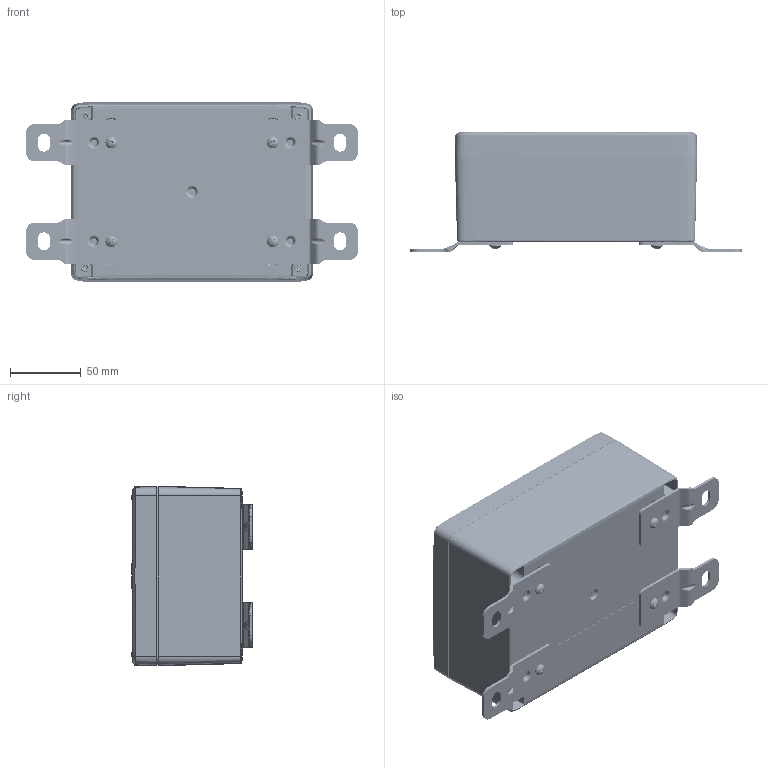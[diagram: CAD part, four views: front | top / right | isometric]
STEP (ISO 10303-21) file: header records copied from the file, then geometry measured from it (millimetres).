
FILE_DESCRIPTION (( 'STEP AP214' ), '1' );
FILE_NAME ('HN-57-24.STEP', '2026-02-24T13:07:28', ( '' ), ( '' ), 'SwSTEP 2.0', 'SolidWorks 2025', '' );
FILE_SCHEMA (( 'AUTOMOTIVE_DESIGN' ));
Length unit declared in the file: inch
Products named in the file (11): INSERTS-3_INSERTS-3; HN-57C_HN-57C-02; HN-57B_HN-57BP-00; HN-57-24; HN-57CG_HN-57CG-02; ZH-91F-01_ZH-91F-01; HN-57G_default; SCREWS-xxx_#8-16 PLASTITE, PAN, PHILLIPS_SCREWS-044; LABEL-107; HN-57BN_HN-57BPN-00; SCREWS-054_DEFAULT
Assembly tree (22 placements, depth 3):
  HN-57-24
    HN-57B_HN-57BP-00
      HN-57BN_HN-57BPN-00
      INSERTS-3_INSERTS-3  x4
      LABEL-107
    HN-57CG_HN-57CG-02
      HN-57C_HN-57C-02
      HN-57G_default
    SCREWS-054_DEFAULT  x4
    ZH-91F-01_ZH-91F-01  x4
    SCREWS-xxx_#8-16 PLASTITE, PAN, PHILLIPS_SCREWS-044  x4
Bounding box: 234.95 x 85 x 127 mm (x, y, z)
Volume: 329497.3 mm3; surface area: 225018.8 mm2
Topology: 19 solids, 21 shells, 4944 faces, 12220 edges, 7314 vertices
Faces by surface type: cone 1212, torus 1204, bspline 846, cylinder 821, plane 795, sphere 66
Entity records: 154711 total; most frequent: CARTESIAN_POINT 68712, ORIENTED_EDGE 19290, DIRECTION 16690, EDGE_CURVE 9648, AXIS2_PLACEMENT_3D 7344, VERTEX_POINT 5811, CIRCLE 4094, EDGE_LOOP 4024
